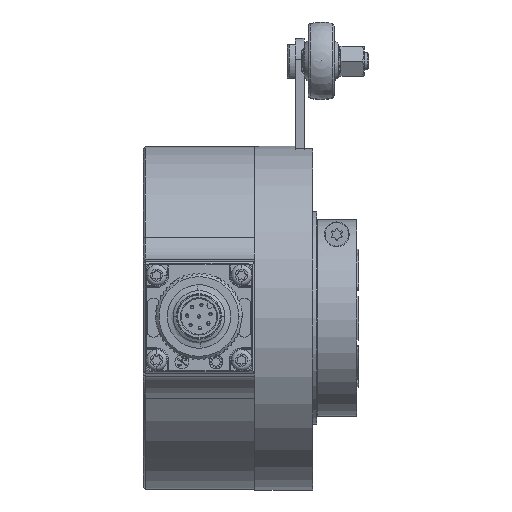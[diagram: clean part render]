
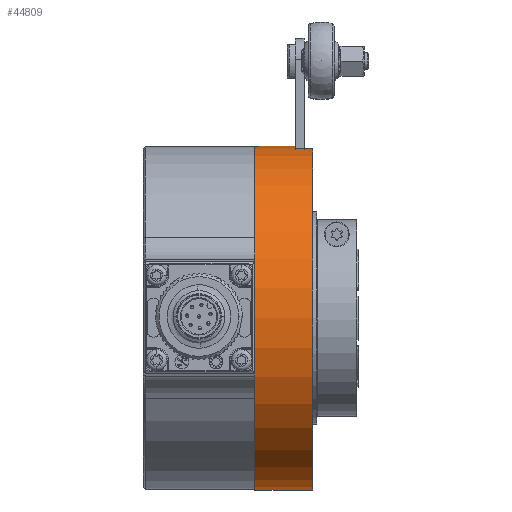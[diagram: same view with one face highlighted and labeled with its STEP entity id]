
A CAD part, top view. The second image highlights one B-rep face of the part: STEP entity #44809.
In plain terms, the highlighted cylindrical face has radius 40.075 mm (diameter 80.15 mm), a partial arc.
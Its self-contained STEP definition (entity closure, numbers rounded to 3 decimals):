
#254 = EDGE_CURVE ( 'NONE', #30982, #22279, #49142, .T. ) ;
#1305 = EDGE_CURVE ( 'NONE', #22279, #43820, #52924, .T. ) ;
#2039 = CYLINDRICAL_SURFACE ( 'NONE', #42112, 40.075 ) ;
#2313 = EDGE_CURVE ( 'NONE', #26039, #43820, #52590, .T. ) ;
#3145 = ORIENTED_EDGE ( 'NONE', *, *, #254, .T. ) ;
#4320 = ORIENTED_EDGE ( 'NONE', *, *, #1305, .T. ) ;
#4486 = ORIENTED_EDGE ( 'NONE', *, *, #21821, .F. ) ;
#7760 = CIRCLE ( 'NONE', #31374, 40.075 ) ;
#7853 = DIRECTION ( 'NONE',  ( -1., 0., 0. ) ) ;
#8215 = LINE ( 'NONE', #21823, #37559 ) ;
#8448 = DIRECTION ( 'NONE',  ( 0., 1., 0. ) ) ;
#8451 = DIRECTION ( 'NONE',  ( 0., 1., 0. ) ) ;
#8457 = CARTESIAN_POINT ( 'NONE',  ( 0., 40.075, 0. ) ) ;
#9206 = CARTESIAN_POINT ( 'NONE',  ( 13.5, 0., 0. ) ) ;
#13081 = CARTESIAN_POINT ( 'NONE',  ( 13.5, 39.468, 6.95 ) ) ;
#13130 = LINE ( 'NONE', #40365, #50859 ) ;
#20392 = CARTESIAN_POINT ( 'NONE',  ( 13.5, -40.075, 0. ) ) ;
#21821 = EDGE_CURVE ( 'NONE', #31748, #26039, #8215, .T. ) ;
#21823 = CARTESIAN_POINT ( 'NONE',  ( -12.775, -40.075, 0. ) ) ;
#22279 = VERTEX_POINT ( 'NONE', #58117 ) ;
#26039 = VERTEX_POINT ( 'NONE', #38372 ) ;
#26518 = DIRECTION ( 'NONE',  ( -1., 0., 0. ) ) ;
#26750 = DIRECTION ( 'NONE',  ( -1., 0., 0. ) ) ;
#27308 = AXIS2_PLACEMENT_3D ( 'NONE', #40439, #7853, #8451 ) ;
#27812 = EDGE_CURVE ( 'NONE', #31748, #36979, #7760, .T. ) ;
#28992 = DIRECTION ( 'NONE',  ( 0., 1., 0. ) ) ;
#30982 = VERTEX_POINT ( 'NONE', #47261 ) ;
#31374 = AXIS2_PLACEMENT_3D ( 'NONE', #9206, #36994, #28992 ) ;
#31748 = VERTEX_POINT ( 'NONE', #20392 ) ;
#31807 = ORIENTED_EDGE ( 'NONE', *, *, #27812, .T. ) ;
#34016 = DIRECTION ( 'NONE',  ( -1., 0., 0. ) ) ;
#36023 = ORIENTED_EDGE ( 'NONE', *, *, #48383, .T. ) ;
#36979 = VERTEX_POINT ( 'NONE', #13081 ) ;
#36994 = DIRECTION ( 'NONE',  ( -1., 0., 0. ) ) ;
#37559 = VECTOR ( 'NONE', #26518, 1000. ) ;
#37874 = DIRECTION ( 'NONE',  ( 0., 1., 0. ) ) ;
#38372 = CARTESIAN_POINT ( 'NONE',  ( 0., -40.075, 0. ) ) ;
#38409 = VECTOR ( 'NONE', #48168, 1000. ) ;
#40365 = CARTESIAN_POINT ( 'NONE',  ( -12.775, 39.468, 6.95 ) ) ;
#40439 = CARTESIAN_POINT ( 'NONE',  ( 9.5, 0., 0. ) ) ;
#42112 = AXIS2_PLACEMENT_3D ( 'NONE', #56841, #34016, #37874 ) ;
#42196 = AXIS2_PLACEMENT_3D ( 'NONE', #54352, #26750, #8448 ) ;
#42790 = ORIENTED_EDGE ( 'NONE', *, *, #2313, .F. ) ;
#43820 = VERTEX_POINT ( 'NONE', #8457 ) ;
#44809 = ADVANCED_FACE ( 'NONE', ( #47650 ), #2039, .T. ) ;
#45244 = EDGE_LOOP ( 'NONE', ( #4486, #31807, #36023, #3145, #4320, #42790 ) ) ;
#47261 = CARTESIAN_POINT ( 'NONE',  ( 9.5, 39.468, 6.95 ) ) ;
#47650 = FACE_OUTER_BOUND ( 'NONE', #45244, .T. ) ;
#48168 = DIRECTION ( 'NONE',  ( -1., 0., 0. ) ) ;
#48383 = EDGE_CURVE ( 'NONE', #36979, #30982, #13130, .T. ) ;
#49142 = CIRCLE ( 'NONE', #27308, 40.075 ) ;
#50859 = VECTOR ( 'NONE', #54277, 1000. ) ;
#52324 = CARTESIAN_POINT ( 'NONE',  ( -12.775, 40.075, 0. ) ) ;
#52590 = CIRCLE ( 'NONE', #42196, 40.075 ) ;
#52924 = LINE ( 'NONE', #52324, #38409 ) ;
#54277 = DIRECTION ( 'NONE',  ( -1., 0., 0. ) ) ;
#54352 = CARTESIAN_POINT ( 'NONE',  ( 0., 0., 0. ) ) ;
#56841 = CARTESIAN_POINT ( 'NONE',  ( -12.775, 0., 0. ) ) ;
#58117 = CARTESIAN_POINT ( 'NONE',  ( 9.5, 40.075, 0. ) ) ;
